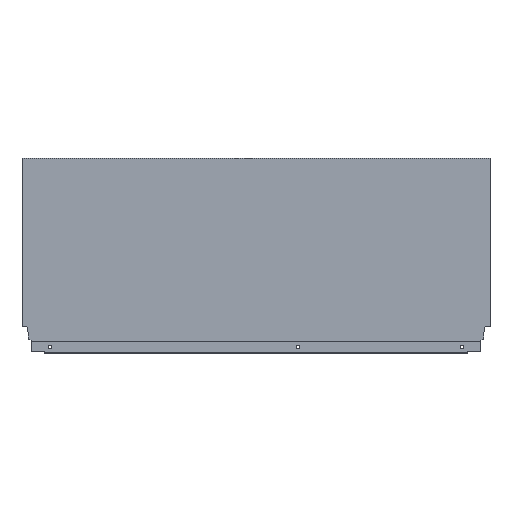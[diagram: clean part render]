
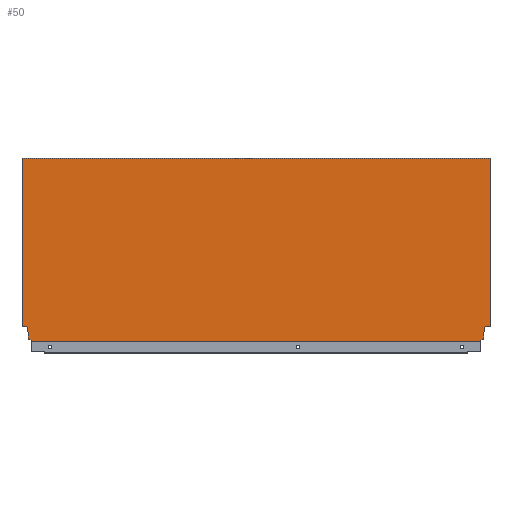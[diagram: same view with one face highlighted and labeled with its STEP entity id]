
A CAD part, top view. The second image highlights one B-rep face of the part: STEP entity #50.
In plain terms, the highlighted planar face has unit normal (0, 0, 1).
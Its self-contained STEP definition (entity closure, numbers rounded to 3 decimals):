
#50 = ADVANCED_FACE ( 'NONE', ( #551 ), #1164, .T. ) ;
#95 = EDGE_CURVE ( 'NONE', #1006, #937, #1377, .T. ) ;
#97 = EDGE_CURVE ( 'NONE', #1006, #1080, #1373, .T. ) ;
#101 = EDGE_CURVE ( 'NONE', #957, #947, #1363, .T. ) ;
#102 = EDGE_CURVE ( 'NONE', #1028, #957, #1361, .T. ) ;
#103 = EDGE_CURVE ( 'NONE', #1025, #1028, #1359, .T. ) ;
#104 = EDGE_CURVE ( 'NONE', #1080, #1025, #1357, .T. ) ;
#105 = EDGE_CURVE ( 'NONE', #1127, #937, #1355, .T. ) ;
#106 = EDGE_CURVE ( 'NONE', #1115, #947, #1353, .T. ) ;
#107 = EDGE_CURVE ( 'NONE', #1087, #1127, #1351, .T. ) ;
#108 = EDGE_CURVE ( 'NONE', #1118, #1087, #1349, .T. ) ;
#109 = EDGE_CURVE ( 'NONE', #907, #1044, #1368, .T. ) ;
#110 = EDGE_CURVE ( 'NONE', #908, #1118, #1369, .T. ) ;
#112 = EDGE_CURVE ( 'NONE', #1044, #908, #1389, .T. ) ;
#114 = EDGE_CURVE ( 'NONE', #1115, #907, #1346, .T. ) ;
#292 = EDGE_LOOP ( 'NONE', ( #414, #415, #402, #401, #400, #416, #404, #403, #425, #424, #423, #428, #427, #426 ) ) ;
#400 = ORIENTED_EDGE ( 'NONE', *, *, #104, .F. ) ;
#401 = ORIENTED_EDGE ( 'NONE', *, *, #103, .F. ) ;
#402 = ORIENTED_EDGE ( 'NONE', *, *, #102, .F. ) ;
#403 = ORIENTED_EDGE ( 'NONE', *, *, #105, .F. ) ;
#404 = ORIENTED_EDGE ( 'NONE', *, *, #95, .T. ) ;
#414 = ORIENTED_EDGE ( 'NONE', *, *, #106, .T. ) ;
#415 = ORIENTED_EDGE ( 'NONE', *, *, #101, .F. ) ;
#416 = ORIENTED_EDGE ( 'NONE', *, *, #97, .F. ) ;
#423 = ORIENTED_EDGE ( 'NONE', *, *, #110, .F. ) ;
#424 = ORIENTED_EDGE ( 'NONE', *, *, #108, .F. ) ;
#425 = ORIENTED_EDGE ( 'NONE', *, *, #107, .F. ) ;
#426 = ORIENTED_EDGE ( 'NONE', *, *, #114, .F. ) ;
#427 = ORIENTED_EDGE ( 'NONE', *, *, #109, .F. ) ;
#428 = ORIENTED_EDGE ( 'NONE', *, *, #112, .F. ) ;
#551 = FACE_OUTER_BOUND ( 'NONE', #292, .T. ) ;
#680 = CARTESIAN_POINT ( 'NONE',  ( -13.004, 1.146, 8. ) ) ;
#687 = CARTESIAN_POINT ( 'NONE',  ( -8.9, 10.765, 8. ) ) ;
#691 = CARTESIAN_POINT ( 'NONE',  ( -667., 260.7, 8. ) ) ;
#698 = CARTESIAN_POINT ( 'NONE',  ( -8.9, 2.64, 8. ) ) ;
#699 = CARTESIAN_POINT ( 'NONE',  ( -653.996, 1.146, 8. ) ) ;
#710 = CARTESIAN_POINT ( 'NONE',  ( 0., 21.2, 8. ) ) ;
#719 = CARTESIAN_POINT ( 'NONE',  ( -658.1, 10.765, 8. ) ) ;
#720 = CARTESIAN_POINT ( 'NONE',  ( -658.1, 2.64, 8. ) ) ;
#728 = CARTESIAN_POINT ( 'NONE',  ( -653.996, 0., 8. ) ) ;
#751 = CARTESIAN_POINT ( 'NONE',  ( -659.94, 21.2, 8. ) ) ;
#755 = CARTESIAN_POINT ( 'NONE',  ( -667., 21.2, 8. ) ) ;
#759 = CARTESIAN_POINT ( 'NONE',  ( -13.004, 0., 8. ) ) ;
#768 = CARTESIAN_POINT ( 'NONE',  ( -7.06, 21.2, 8. ) ) ;
#783 = CARTESIAN_POINT ( 'NONE',  ( 0., 260.7, 8. ) ) ;
#907 = VERTEX_POINT ( 'NONE', #783 ) ;
#908 = VERTEX_POINT ( 'NONE', #768 ) ;
#927 = DIRECTION ( 'NONE',  ( 1., 0., 0. ) ) ;
#931 = DIRECTION ( 'NONE',  ( -1., 0., 0. ) ) ;
#933 = CARTESIAN_POINT ( 'NONE',  ( -667., 260.7, 8. ) ) ;
#936 = DIRECTION ( 'NONE',  ( -0.174, -0.985, 0. ) ) ;
#937 = VERTEX_POINT ( 'NONE', #759 ) ;
#938 = CARTESIAN_POINT ( 'NONE',  ( 0., 21.2, 8. ) ) ;
#940 = DIRECTION ( 'NONE',  ( 0., -1., 0. ) ) ;
#941 = CARTESIAN_POINT ( 'NONE',  ( -7.06, 21.2, 8. ) ) ;
#942 = DIRECTION ( 'NONE',  ( 0., -1., 0. ) ) ;
#944 = CARTESIAN_POINT ( 'NONE',  ( -8.9, 10.765, 8. ) ) ;
#945 = DIRECTION ( 'NONE',  ( -0.94, -0.342, 0. ) ) ;
#946 = CARTESIAN_POINT ( 'NONE',  ( -8.9, 2.64, 8. ) ) ;
#947 = VERTEX_POINT ( 'NONE', #755 ) ;
#948 = DIRECTION ( 'NONE',  ( 0., -1., 0. ) ) ;
#949 = CARTESIAN_POINT ( 'NONE',  ( -667., 0., 8. ) ) ;
#951 = DIRECTION ( 'NONE',  ( 0., -1., 0. ) ) ;
#952 = CARTESIAN_POINT ( 'NONE',  ( -13.004, 1.146, 8. ) ) ;
#954 = DIRECTION ( 'NONE',  ( -0.94, 0.342, 0. ) ) ;
#955 = CARTESIAN_POINT ( 'NONE',  ( -658.1, 2.64, 8. ) ) ;
#956 = DIRECTION ( 'NONE',  ( 0., 1., 0. ) ) ;
#957 = VERTEX_POINT ( 'NONE', #751 ) ;
#958 = CARTESIAN_POINT ( 'NONE',  ( -658.1, 10.765, 8. ) ) ;
#959 = DIRECTION ( 'NONE',  ( -0.174, 0.985, 0. ) ) ;
#961 = CARTESIAN_POINT ( 'NONE',  ( -659.94, 21.2, 8. ) ) ;
#962 = DIRECTION ( 'NONE',  ( -1., 0., 0. ) ) ;
#963 = CARTESIAN_POINT ( 'NONE',  ( -672., 21.2, 8. ) ) ;
#970 = CARTESIAN_POINT ( 'NONE',  ( 0., 0., 8. ) ) ;
#975 = DIRECTION ( 'NONE',  ( 0., 1., 0. ) ) ;
#977 = CARTESIAN_POINT ( 'NONE',  ( -653.996, 1.146, 8. ) ) ;
#981 = DIRECTION ( 'NONE',  ( 1., 0., 0. ) ) ;
#982 = CARTESIAN_POINT ( 'NONE',  ( -667., 0., 8. ) ) ;
#1006 = VERTEX_POINT ( 'NONE', #728 ) ;
#1025 = VERTEX_POINT ( 'NONE', #720 ) ;
#1028 = VERTEX_POINT ( 'NONE', #719 ) ;
#1044 = VERTEX_POINT ( 'NONE', #710 ) ;
#1080 = VERTEX_POINT ( 'NONE', #699 ) ;
#1087 = VERTEX_POINT ( 'NONE', #698 ) ;
#1115 = VERTEX_POINT ( 'NONE', #691 ) ;
#1118 = VERTEX_POINT ( 'NONE', #687 ) ;
#1127 = VERTEX_POINT ( 'NONE', #680 ) ;
#1153 = DIRECTION ( 'NONE',  ( 1., 0., 0. ) ) ;
#1154 = DIRECTION ( 'NONE',  ( 0., 0., 1. ) ) ;
#1161 = CARTESIAN_POINT ( 'NONE',  ( -667., 0., 8. ) ) ;
#1164 = PLANE ( 'NONE',  #1207 ) ;
#1207 = AXIS2_PLACEMENT_3D ( 'NONE', #1161, #1154, #1153 ) ;
#1337 = VECTOR ( 'NONE', #927, 1000. ) ;
#1341 = VECTOR ( 'NONE', #931, 1000. ) ;
#1345 = VECTOR ( 'NONE', #936, 1000. ) ;
#1346 = LINE ( 'NONE', #933, #1337 ) ;
#1347 = VECTOR ( 'NONE', #940, 1000. ) ;
#1348 = VECTOR ( 'NONE', #942, 1000. ) ;
#1349 = LINE ( 'NONE', #944, #1348 ) ;
#1350 = VECTOR ( 'NONE', #945, 1000. ) ;
#1351 = LINE ( 'NONE', #946, #1350 ) ;
#1352 = VECTOR ( 'NONE', #948, 1000. ) ;
#1353 = LINE ( 'NONE', #949, #1352 ) ;
#1354 = VECTOR ( 'NONE', #951, 1000. ) ;
#1355 = LINE ( 'NONE', #952, #1354 ) ;
#1356 = VECTOR ( 'NONE', #954, 1000. ) ;
#1357 = LINE ( 'NONE', #955, #1356 ) ;
#1358 = VECTOR ( 'NONE', #956, 1000. ) ;
#1359 = LINE ( 'NONE', #958, #1358 ) ;
#1360 = VECTOR ( 'NONE', #959, 1000. ) ;
#1361 = LINE ( 'NONE', #961, #1360 ) ;
#1362 = VECTOR ( 'NONE', #962, 1000. ) ;
#1363 = LINE ( 'NONE', #963, #1362 ) ;
#1368 = LINE ( 'NONE', #970, #1347 ) ;
#1369 = LINE ( 'NONE', #941, #1345 ) ;
#1370 = VECTOR ( 'NONE', #975, 1000. ) ;
#1373 = LINE ( 'NONE', #977, #1370 ) ;
#1376 = VECTOR ( 'NONE', #981, 1000. ) ;
#1377 = LINE ( 'NONE', #982, #1376 ) ;
#1389 = LINE ( 'NONE', #938, #1341 ) ;
